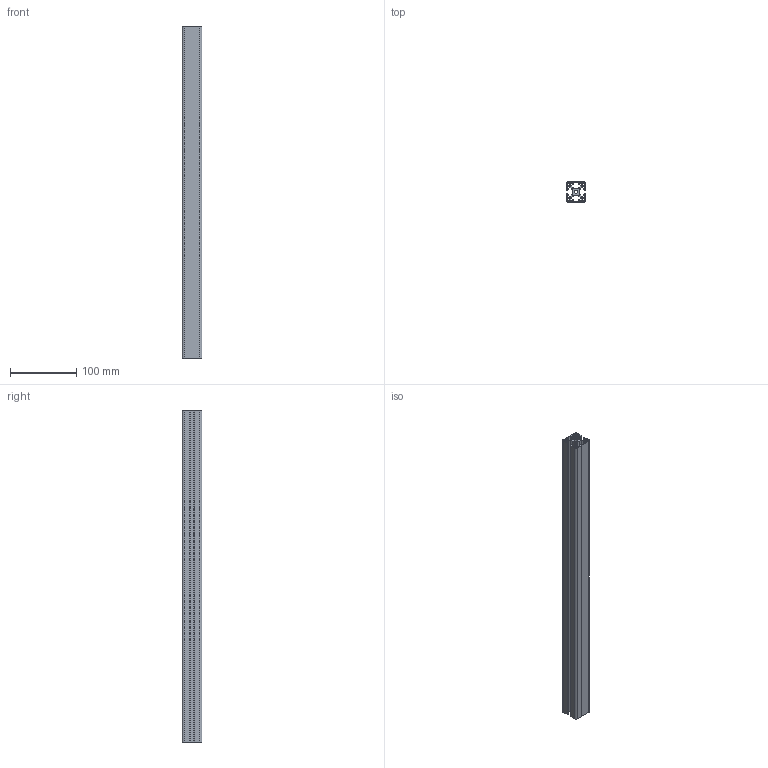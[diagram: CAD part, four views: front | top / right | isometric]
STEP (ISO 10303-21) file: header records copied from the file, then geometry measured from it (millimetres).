
FILE_DESCRIPTION (( 'STEP AP203' ), '1' );
FILE_NAME ('PP3130-500-Rollco.step', '2026-05-04T07:40:08', ( '' ), ( '' ), 'SwSTEP 2.0', 'SolidWorks 2014', '' );
FILE_SCHEMA (( 'CONFIG_CONTROL_DESIGN' ));
Length unit declared in the file: millimetre
Products named in the file (1): PP3130-500-Rollco
Bounding box: 30 x 30 x 500 mm (x, y, z)
Volume: 180066.7 mm3; surface area: 180332 mm2
Topology: 1 solids, 1 shells, 156 faces, 462 edges, 308 vertices
Faces by surface type: cylinder 78, plane 78
Entity records: 5359 total; most frequent: CARTESIAN_POINT 951, ORIENTED_EDGE 924, DIRECTION 916, EDGE_CURVE 462, VERTEX_POINT 308, VECTOR 306, LINE 306, AXIS2_PLACEMENT_3D 305
